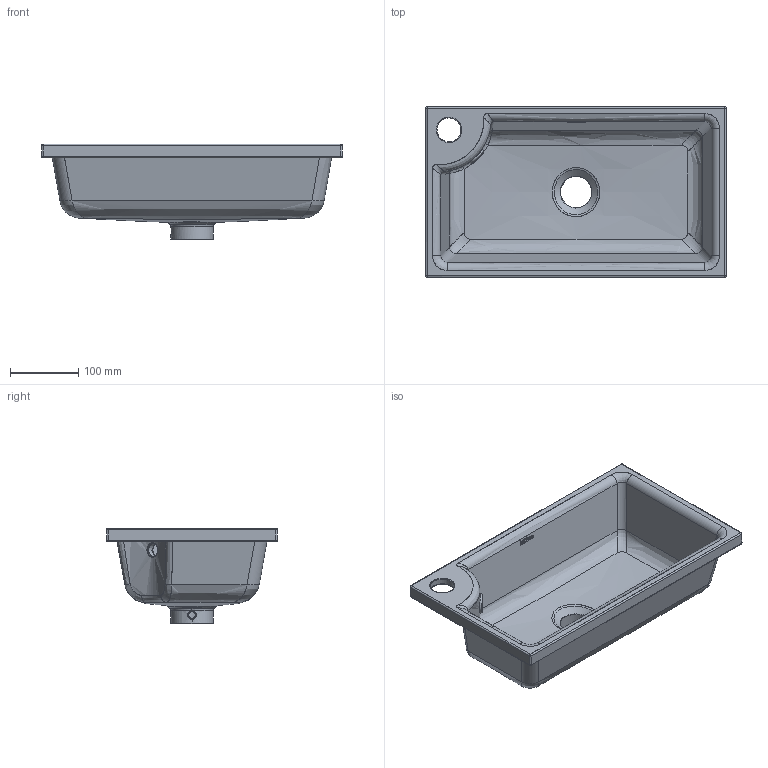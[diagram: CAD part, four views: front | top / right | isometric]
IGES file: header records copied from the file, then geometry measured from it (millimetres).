
Global section: file name: C:\Users\User\Desktop\9901-L Niza.igs; native system: Rhinoceros ( Feb 26 2015 ); preprocessor: Trout Lake IGES 012 Feb 26 2015; date: 201028.152037; units: millimetre
Bounding box: 440 x 250 x 140 mm (x, y, z)
Surface area: 430608.5 mm2 (no closed solid volume)
Topology: 0 solids, 0 shells, 206 faces, 2244 edges, 2227 vertices
Faces by surface type: bspline 206
